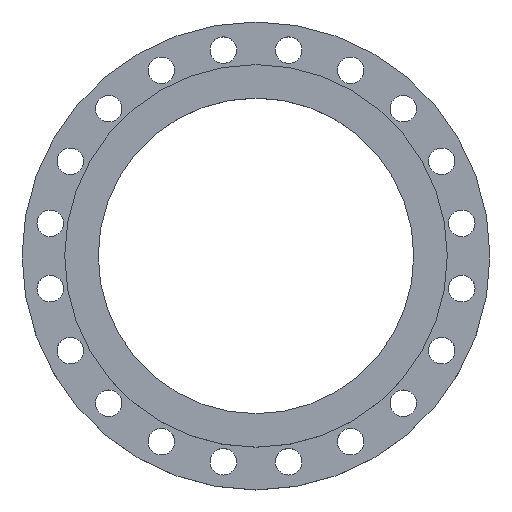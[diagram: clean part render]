
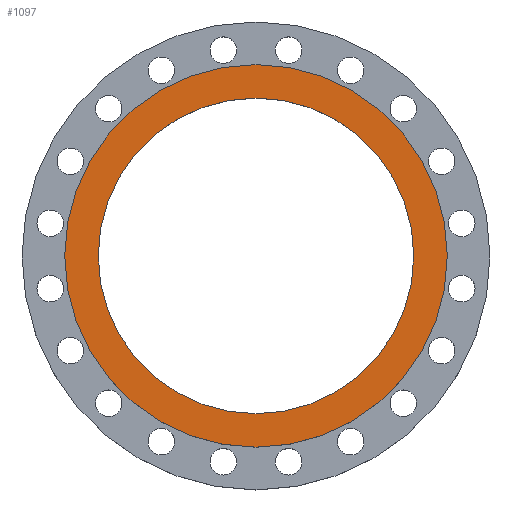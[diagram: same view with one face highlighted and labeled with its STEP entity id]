
A CAD part, top view. The second image highlights one B-rep face of the part: STEP entity #1097.
In plain terms, the highlighted planar face has unit normal (0, 0, 1).
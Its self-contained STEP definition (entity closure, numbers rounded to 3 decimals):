
#36 = DIRECTION ( 'NONE',  ( 0., 0., -1. ) ) ;
#55 = ORIENTED_EDGE ( 'NONE', *, *, #1063, .T. ) ;
#59 = ORIENTED_EDGE ( 'NONE', *, *, #454, .F. ) ;
#66 = DIRECTION ( 'NONE',  ( 0., 0., -1. ) ) ;
#73 = DIRECTION ( 'NONE',  ( 0., 0., -1. ) ) ;
#105 = VERTEX_POINT ( 'NONE', #378 ) ;
#124 = AXIS2_PLACEMENT_3D ( 'NONE', #1332, #1875, #538 ) ;
#172 = ORIENTED_EDGE ( 'NONE', *, *, #1036, .T. ) ;
#202 = FACE_BOUND ( 'NONE', #1560, .T. ) ;
#245 = AXIS2_PLACEMENT_3D ( 'NONE', #1483, #66, #689 ) ;
#378 = CARTESIAN_POINT ( 'NONE',  ( 280., 0., 46. ) ) ;
#435 = ORIENTED_EDGE ( 'NONE', *, *, #1116, .F. ) ;
#454 = EDGE_CURVE ( 'NONE', #1475, #105, #936, .T. ) ;
#538 = DIRECTION ( 'NONE',  ( -1., 0., 0. ) ) ;
#621 = CARTESIAN_POINT ( 'NONE',  ( 231., 0., 46. ) ) ;
#661 = DIRECTION ( 'NONE',  ( -1., 0., 0. ) ) ;
#668 = CARTESIAN_POINT ( 'NONE',  ( 0., 0., 46. ) ) ;
#689 = DIRECTION ( 'NONE',  ( -1., 0., 0. ) ) ;
#697 = DIRECTION ( 'NONE',  ( -1., 0., 0. ) ) ;
#849 = PLANE ( 'NONE',  #245 ) ;
#894 = CARTESIAN_POINT ( 'NONE',  ( -231., 0., 46. ) ) ;
#936 = CIRCLE ( 'NONE', #944, 280. ) ;
#944 = AXIS2_PLACEMENT_3D ( 'NONE', #1489, #73, #697 ) ;
#1006 = AXIS2_PLACEMENT_3D ( 'NONE', #1456, #36, #661 ) ;
#1036 = EDGE_CURVE ( 'NONE', #1765, #1574, #1793, .T. ) ;
#1063 = EDGE_CURVE ( 'NONE', #1574, #1765, #1555, .T. ) ;
#1097 = ADVANCED_FACE ( 'NONE', ( #1631, #202 ), #849, .F. ) ;
#1116 = EDGE_CURVE ( 'NONE', #105, #1475, #1216, .T. ) ;
#1216 = CIRCLE ( 'NONE', #124, 280. ) ;
#1294 = DIRECTION ( 'NONE',  ( 0., 0., -1. ) ) ;
#1317 = CARTESIAN_POINT ( 'NONE',  ( -280., 0., 46. ) ) ;
#1332 = CARTESIAN_POINT ( 'NONE',  ( 0., 0., 46. ) ) ;
#1446 = EDGE_LOOP ( 'NONE', ( #59, #435 ) ) ;
#1456 = CARTESIAN_POINT ( 'NONE',  ( 0., 0., 46. ) ) ;
#1475 = VERTEX_POINT ( 'NONE', #1317 ) ;
#1483 = CARTESIAN_POINT ( 'NONE',  ( 231., 0., 46. ) ) ;
#1489 = CARTESIAN_POINT ( 'NONE',  ( 0., 0., 46. ) ) ;
#1552 = AXIS2_PLACEMENT_3D ( 'NONE', #668, #1294, #1851 ) ;
#1555 = CIRCLE ( 'NONE', #1552, 231. ) ;
#1560 = EDGE_LOOP ( 'NONE', ( #55, #172 ) ) ;
#1574 = VERTEX_POINT ( 'NONE', #894 ) ;
#1631 = FACE_OUTER_BOUND ( 'NONE', #1446, .T. ) ;
#1765 = VERTEX_POINT ( 'NONE', #621 ) ;
#1793 = CIRCLE ( 'NONE', #1006, 231. ) ;
#1851 = DIRECTION ( 'NONE',  ( -1., 0., 0. ) ) ;
#1875 = DIRECTION ( 'NONE',  ( 0., 0., -1. ) ) ;
